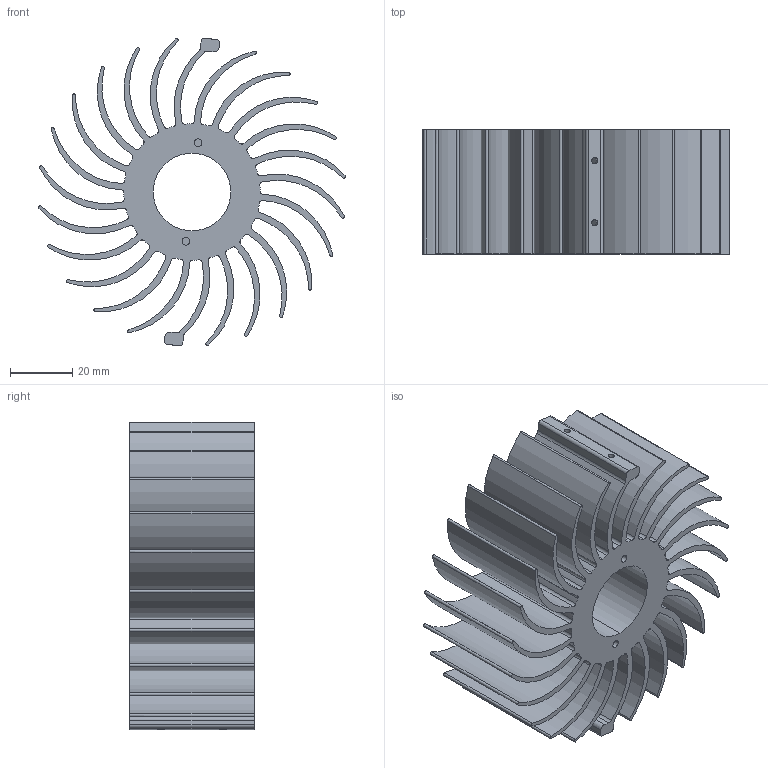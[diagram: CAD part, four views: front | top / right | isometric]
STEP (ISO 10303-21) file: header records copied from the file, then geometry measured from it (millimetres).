
FILE_DESCRIPTION((''),'2;1');
FILE_NAME('X00553-REVD','2012-06-04T',('Jonah'),(''),'PRO/ENGINEER BY PARAMETRIC TECHNOLOGY CORPORATION, 2010230','PRO/ENGINEER BY PARAMETRIC TECHNOLOGY CORPORATION, 2010230','');
FILE_SCHEMA(('CONFIG_CONTROL_DESIGN'));
Length unit declared in the file: millimetre
Products named in the file (1): X00553-REVD
Bounding box: 98.9 x 40 x 99.16 mm (x, y, z)
Volume: 96736.8 mm3; surface area: 74233.5 mm2
Topology: 1 solids, 1 shells, 193 faces, 564 edges, 376 vertices
Faces by surface type: cylinder 178, plane 15
Entity records: 6948 total; most frequent: CARTESIAN_POINT 1581, DIRECTION 1194, ORIENTED_EDGE 1128, EDGE_CURVE 564, AXIS2_PLACEMENT_3D 497, VERTEX_POINT 376, CIRCLE 304, EDGE_LOOP 206
